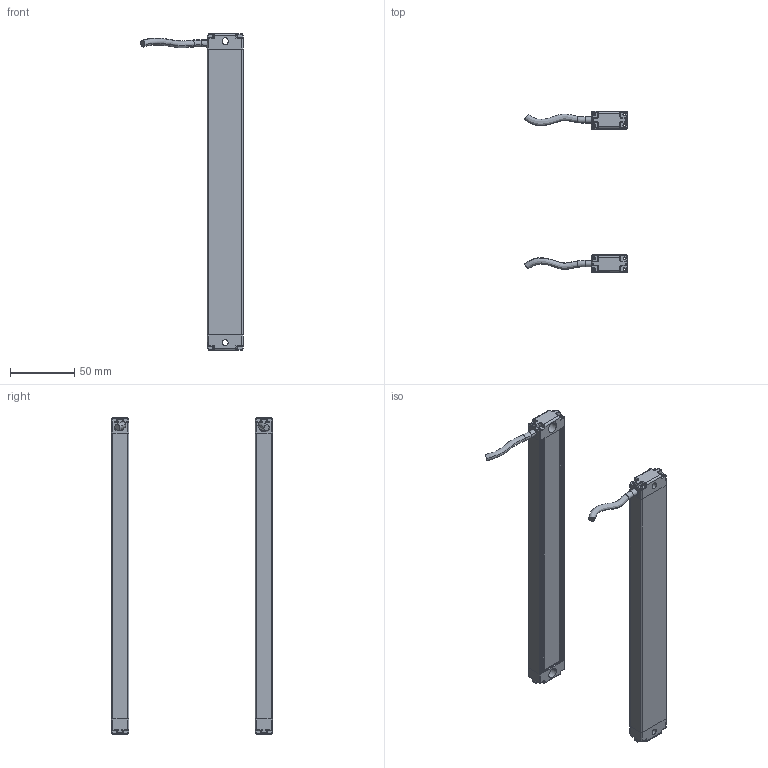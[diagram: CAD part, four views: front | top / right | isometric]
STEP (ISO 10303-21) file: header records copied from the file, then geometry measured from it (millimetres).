
FILE_DESCRIPTION(/* description */ (''),/* implementation_level */ '2;1');
FILE_NAME(/* name */ '2210.stp',/* time_stamp */ '2018-07-25T17:31:24+08:00',/* author */ (''),/* organization */ (''),/* preprocessor_version */ 'ST-DEVELOPER v16',/* originating_system */ 'SIEMENS PLM Software NX 10.0',/* authorisation */ '');
FILE_SCHEMA (('AP203_CONFIGURATION_CONTROLLED_3D_DESIGN_OF_MECHANICAL_PARTS_AND_ASSEMBLIES_MIM_LF { 1 0 10303 403 2 1 2}'));
Length unit declared in the file: millimetre
Products named in the file (1): Admi101826B0b3ya
Bounding box: 79.6 x 125.02 x 246 mm (x, y, z)
Volume: 74642.6 mm3; surface area: 98402.3 mm2
Topology: 10 solids, 10 shells, 760 faces, 2150 edges, 1419 vertices
Faces by surface type: plane 356, cylinder 312, torus 52, bspline 40
Entity records: 28109 total; most frequent: CARTESIAN_POINT 8577, ORIENTED_EDGE 4300, DIRECTION 3783, EDGE_CURVE 2150, VERTEX_POINT 1419, AXIS2_PLACEMENT_3D 1285, LINE 1213, VECTOR 1213
